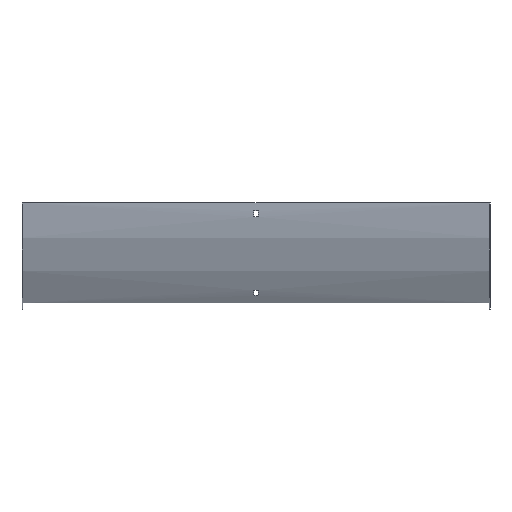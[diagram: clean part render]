
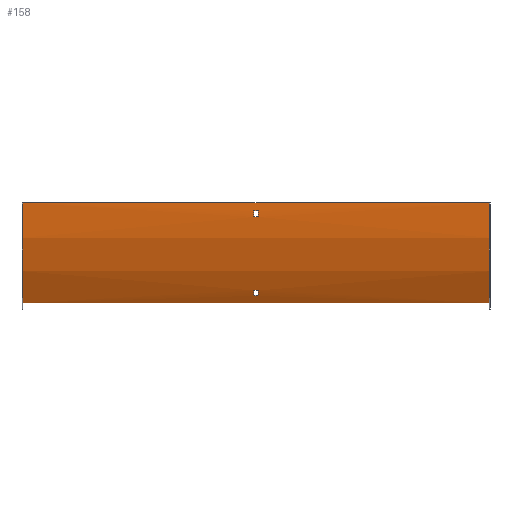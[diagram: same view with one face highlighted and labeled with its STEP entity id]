
A CAD part, front view. The second image highlights one B-rep face of the part: STEP entity #158.
In plain terms, the highlighted cylindrical face has radius 300 mm (diameter 600 mm), a partial arc.
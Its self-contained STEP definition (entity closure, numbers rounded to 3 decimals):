
#1 = FACE_OUTER_BOUND ( 'NONE', #568, .T. ) ;
#7 = CARTESIAN_POINT ( 'NONE',  ( -3.25, -0.764, -21. ) ) ;
#8 = CIRCLE ( 'NONE', #291, 300. ) ;
#10 = EDGE_CURVE ( 'NONE', #295, #174, #23, .T. ) ;
#11 = CARTESIAN_POINT ( 'NONE',  ( 3.25, 298.5, 0. ) ) ;
#23 = CIRCLE ( 'NONE', #440, 300. ) ;
#26 = DIRECTION ( 'NONE',  ( -1., 0., 0. ) ) ;
#37 = CIRCLE ( 'NONE', #350, 300. ) ;
#46 = VERTEX_POINT ( 'NONE', #91 ) ;
#61 = CARTESIAN_POINT ( 'NONE',  ( 351.5, 28.83, -131.446 ) ) ;
#67 = CARTESIAN_POINT ( 'NONE',  ( 350., -1.5, 0. ) ) ;
#81 = CARTESIAN_POINT ( 'NONE',  ( 351.5, -0.764, -21. ) ) ;
#83 = VECTOR ( 'NONE', #443, 1000. ) ;
#91 = CARTESIAN_POINT ( 'NONE',  ( 350., 38.692, -150. ) ) ;
#92 = EDGE_CURVE ( 'NONE', #519, #586, #396, .T. ) ;
#104 = VECTOR ( 'NONE', #601, 1000. ) ;
#105 = CARTESIAN_POINT ( 'NONE',  ( -3.25, 298.5, 0. ) ) ;
#106 = CARTESIAN_POINT ( 'NONE',  ( 351.5, 32.9, -139.488 ) ) ;
#121 = LINE ( 'NONE', #81, #372 ) ;
#127 = CYLINDRICAL_SURFACE ( 'NONE', #359, 300. ) ;
#148 = VERTEX_POINT ( 'NONE', #466 ) ;
#158 = ADVANCED_FACE ( 'NONE', ( #417, #1, #365 ), #127, .T. ) ;
#161 = AXIS2_PLACEMENT_3D ( 'NONE', #280, #271, #455 ) ;
#164 = DIRECTION ( 'NONE',  ( 1., 0., 0. ) ) ;
#165 = ORIENTED_EDGE ( 'NONE', *, *, #451, .T. ) ;
#169 = CARTESIAN_POINT ( 'NONE',  ( 3.25, -0.764, -21. ) ) ;
#172 = LINE ( 'NONE', #411, #104 ) ;
#174 = VERTEX_POINT ( 'NONE', #7 ) ;
#186 = CARTESIAN_POINT ( 'NONE',  ( 350., 298.5, 0. ) ) ;
#188 = VECTOR ( 'NONE', #296, 1000. ) ;
#200 = CARTESIAN_POINT ( 'NONE',  ( -3.25, -1.26, -12. ) ) ;
#208 = VECTOR ( 'NONE', #26, 1000. ) ;
#209 = CARTESIAN_POINT ( 'NONE',  ( 3.25, 298.5, 0. ) ) ;
#223 = ORIENTED_EDGE ( 'NONE', *, *, #442, .F. ) ;
#227 = ORIENTED_EDGE ( 'NONE', *, *, #329, .F. ) ;
#233 = DIRECTION ( 'NONE',  ( -1., 0., 0. ) ) ;
#234 = ORIENTED_EDGE ( 'NONE', *, *, #261, .T. ) ;
#240 = DIRECTION ( 'NONE',  ( 0., 0., 1. ) ) ;
#243 = DIRECTION ( 'NONE',  ( -1., 0., 0. ) ) ;
#253 = CARTESIAN_POINT ( 'NONE',  ( -3.25, 32.9, -139.488 ) ) ;
#254 = CARTESIAN_POINT ( 'NONE',  ( 350., 38.692, -150. ) ) ;
#260 = LINE ( 'NONE', #542, #83 ) ;
#261 = EDGE_CURVE ( 'NONE', #446, #148, #172, .T. ) ;
#262 = VERTEX_POINT ( 'NONE', #546 ) ;
#264 = ORIENTED_EDGE ( 'NONE', *, *, #487, .F. ) ;
#271 = DIRECTION ( 'NONE',  ( -1., 0., 0. ) ) ;
#280 = CARTESIAN_POINT ( 'NONE',  ( -3.25, 298.5, 0. ) ) ;
#286 = CARTESIAN_POINT ( 'NONE',  ( -350., 298.5, 0. ) ) ;
#287 = DIRECTION ( 'NONE',  ( 1., 0., 0. ) ) ;
#291 = AXIS2_PLACEMENT_3D ( 'NONE', #11, #377, #383 ) ;
#293 = ORIENTED_EDGE ( 'NONE', *, *, #92, .T. ) ;
#295 = VERTEX_POINT ( 'NONE', #200 ) ;
#296 = DIRECTION ( 'NONE',  ( -1., 0., 0. ) ) ;
#303 = DIRECTION ( 'NONE',  ( 1., 0., 0. ) ) ;
#311 = VERTEX_POINT ( 'NONE', #467 ) ;
#315 = CIRCLE ( 'NONE', #536, 300. ) ;
#317 = DIRECTION ( 'NONE',  ( 0., 0., 1. ) ) ;
#320 = CIRCLE ( 'NONE', #483, 300. ) ;
#329 = EDGE_CURVE ( 'NONE', #486, #262, #8, .T. ) ;
#346 = EDGE_LOOP ( 'NONE', ( #405, #293, #391, #165 ) ) ;
#350 = AXIS2_PLACEMENT_3D ( 'NONE', #209, #164, #593 ) ;
#359 = AXIS2_PLACEMENT_3D ( 'NONE', #516, #376, #317 ) ;
#365 = FACE_BOUND ( 'NONE', #346, .T. ) ;
#372 = VECTOR ( 'NONE', #303, 1000. ) ;
#373 = LINE ( 'NONE', #61, #378 ) ;
#376 = DIRECTION ( 'NONE',  ( -1., 0., 0. ) ) ;
#377 = DIRECTION ( 'NONE',  ( -1., 0., 0. ) ) ;
#378 = VECTOR ( 'NONE', #430, 1000. ) ;
#383 = DIRECTION ( 'NONE',  ( 0., 0., -1. ) ) ;
#391 = ORIENTED_EDGE ( 'NONE', *, *, #393, .T. ) ;
#392 = CARTESIAN_POINT ( 'NONE',  ( -3.25, 28.83, -131.446 ) ) ;
#393 = EDGE_CURVE ( 'NONE', #586, #577, #373, .T. ) ;
#396 = CIRCLE ( 'NONE', #161, 300. ) ;
#397 = EDGE_CURVE ( 'NONE', #311, #519, #531, .T. ) ;
#405 = ORIENTED_EDGE ( 'NONE', *, *, #397, .T. ) ;
#407 = EDGE_CURVE ( 'NONE', #46, #446, #315, .T. ) ;
#411 = CARTESIAN_POINT ( 'NONE',  ( 350., -1.5, 0. ) ) ;
#417 = FACE_BOUND ( 'NONE', #602, .T. ) ;
#420 = ORIENTED_EDGE ( 'NONE', *, *, #564, .F. ) ;
#430 = DIRECTION ( 'NONE',  ( 1., 0., 0. ) ) ;
#434 = DIRECTION ( 'NONE',  ( 0., 0., 1. ) ) ;
#440 = AXIS2_PLACEMENT_3D ( 'NONE', #105, #287, #434 ) ;
#442 = EDGE_CURVE ( 'NONE', #46, #534, #473, .T. ) ;
#443 = DIRECTION ( 'NONE',  ( -1., 0., 0. ) ) ;
#446 = VERTEX_POINT ( 'NONE', #67 ) ;
#451 = EDGE_CURVE ( 'NONE', #577, #311, #37, .T. ) ;
#455 = DIRECTION ( 'NONE',  ( 0., 0., -1. ) ) ;
#459 = EDGE_CURVE ( 'NONE', #262, #295, #260, .T. ) ;
#466 = CARTESIAN_POINT ( 'NONE',  ( -350., -1.5, 0. ) ) ;
#467 = CARTESIAN_POINT ( 'NONE',  ( 3.25, 32.9, -139.488 ) ) ;
#473 = LINE ( 'NONE', #254, #208 ) ;
#475 = DIRECTION ( 'NONE',  ( 0., 0., 1. ) ) ;
#483 = AXIS2_PLACEMENT_3D ( 'NONE', #286, #243, #475 ) ;
#486 = VERTEX_POINT ( 'NONE', #169 ) ;
#487 = EDGE_CURVE ( 'NONE', #174, #486, #121, .T. ) ;
#516 = CARTESIAN_POINT ( 'NONE',  ( 351.5, 298.5, 0. ) ) ;
#519 = VERTEX_POINT ( 'NONE', #253 ) ;
#521 = CARTESIAN_POINT ( 'NONE',  ( -350., 38.692, -150. ) ) ;
#525 = ORIENTED_EDGE ( 'NONE', *, *, #407, .T. ) ;
#531 = LINE ( 'NONE', #106, #188 ) ;
#534 = VERTEX_POINT ( 'NONE', #521 ) ;
#536 = AXIS2_PLACEMENT_3D ( 'NONE', #186, #233, #240 ) ;
#539 = ORIENTED_EDGE ( 'NONE', *, *, #10, .F. ) ;
#542 = CARTESIAN_POINT ( 'NONE',  ( 351.5, -1.26, -12. ) ) ;
#546 = CARTESIAN_POINT ( 'NONE',  ( 3.25, -1.26, -12. ) ) ;
#564 = EDGE_CURVE ( 'NONE', #534, #148, #320, .T. ) ;
#568 = EDGE_LOOP ( 'NONE', ( #420, #223, #525, #234 ) ) ;
#571 = ORIENTED_EDGE ( 'NONE', *, *, #459, .F. ) ;
#576 = CARTESIAN_POINT ( 'NONE',  ( 3.25, 28.83, -131.446 ) ) ;
#577 = VERTEX_POINT ( 'NONE', #576 ) ;
#586 = VERTEX_POINT ( 'NONE', #392 ) ;
#593 = DIRECTION ( 'NONE',  ( 0., 0., 1. ) ) ;
#601 = DIRECTION ( 'NONE',  ( -1., 0., 0. ) ) ;
#602 = EDGE_LOOP ( 'NONE', ( #539, #571, #227, #264 ) ) ;
